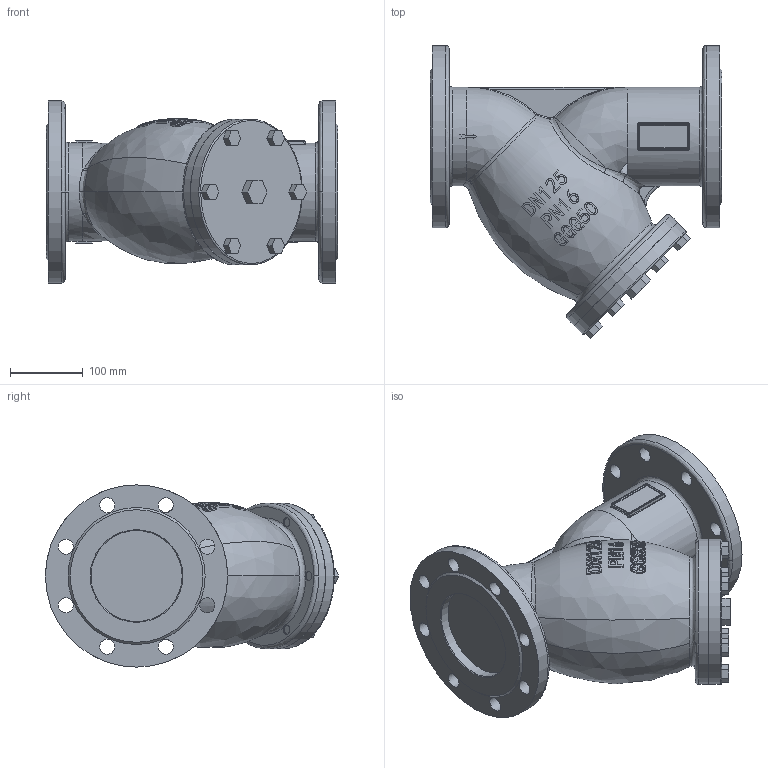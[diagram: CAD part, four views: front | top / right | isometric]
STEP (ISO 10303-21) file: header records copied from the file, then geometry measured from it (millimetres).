
FILE_DESCRIPTION (( 'STEP AP214' ), '1' );
FILE_NAME ('DN125.STEP', '2026-09-13T00:32:41', ( '' ), ( '' ), 'SwSTEP 2.0', 'SolidWorks 2024', '' );
FILE_SCHEMA (( 'AUTOMOTIVE_DESIGN' ));
Length unit declared in the file: millimetre
Products named in the file (1): DN125
Bounding box: 400 x 402.05 x 250 mm (x, y, z)
Volume: 12049799.1 mm3; surface area: 586537.8 mm2
Topology: 1 solids, 5 shells, 485 faces, 1258 edges, 806 vertices
Faces by surface type: plane 200, bspline 196, cylinder 75, torus 10, cone 4
Full cylindrical faces by diameter (mm): 13 x6, 14 x6, 20.462 x16, 125 x2, 135 x2, 138 x1, 200 x2, 250 x2
Entity records: 53935 total; most frequent: CARTESIAN_POINT 39795, ORIENTED_EDGE 2302, DIRECTION 1231, EDGE_CURVE 1151, VERTEX_POINT 774, EDGE_LOOP 627, B_SPLINE_CURVE_WITH_KNOTS 545, FACE_OUTER_BOUND 533
